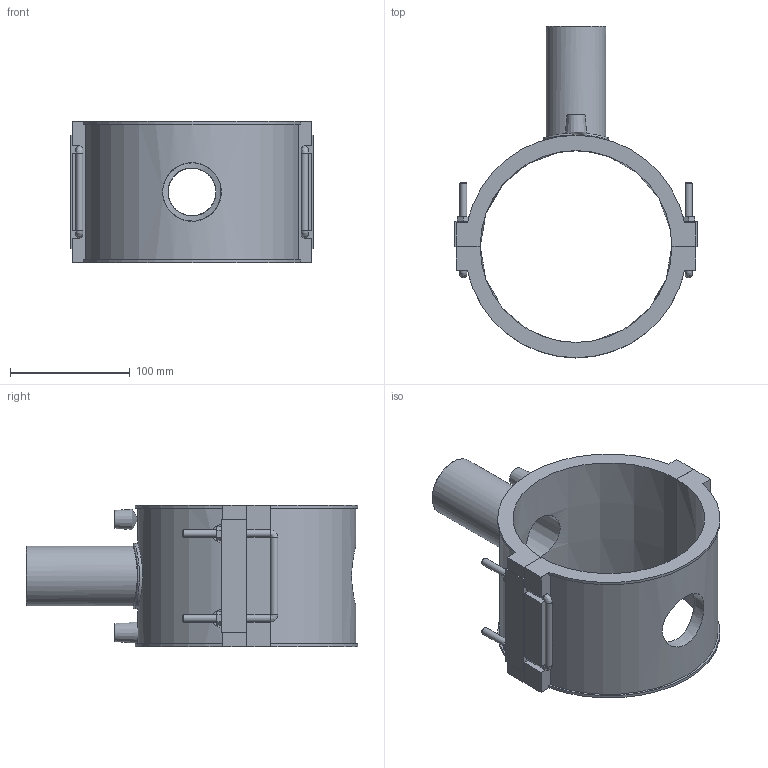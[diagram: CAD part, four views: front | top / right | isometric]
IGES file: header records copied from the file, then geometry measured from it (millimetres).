
Global section: file name: 495804160050.ipt; native system: Autodesk Inventor 2015; preprocessor: unknown; author: KIM; date: 20180426.120851; units: millimetre
Bounding box: 202 x 276.82 x 118 mm (x, y, z)
Volume: 845318.4 mm3; surface area: 191879.1 mm2
Topology: 2 solids, 2 shells, 133 faces, 340 edges, 214 vertices
Faces by surface type: plane 85, cylinder 22, revolution 10, bspline 9, cone 7
Full cylindrical faces by diameter (mm): 4 x2, 6 x10, 50 x1, 55 x1
